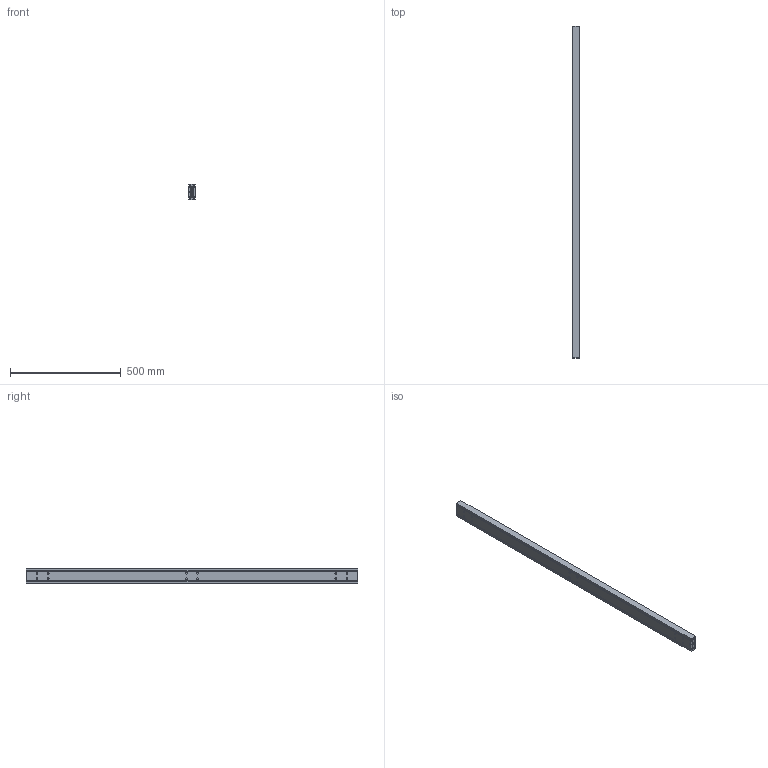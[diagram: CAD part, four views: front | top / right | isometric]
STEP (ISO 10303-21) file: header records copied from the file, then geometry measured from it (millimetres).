
FILE_DESCRIPTION(/* description */ (''),/* implementation_level */ '2;1');
FILE_NAME(/* name */ 'D:\Zeichnungen Schienen Komplett\MX-DTP70\MX-DTP70.150\MX-DTP70.150_eingefahren.stp',/* time_stamp */ '2021-06-15T12:00:19+02:00',/* author */ ('zmile'),/* organization */ (''),/* preprocessor_version */ 'ST-DEVELOPER v16.13',/* originating_system */ 'AutoCAD Mechanical',/* authorisation */ '');
FILE_SCHEMA (('AUTOMOTIVE_DESIGN { 1 0 10303 214 3 1 1 }'));
Length unit declared in the file: millimetre
Products named in the file (1): Product
Bounding box: 32 x 1500 x 70 mm (x, y, z)
Volume: 2556279.3 mm3; surface area: 849828.7 mm2
Topology: 61 solids, 63 shells, 190 faces, 632 edges, 456 vertices
Faces by surface type: plane 82, sphere 56, cylinder 38, bspline 8, torus 6
Full cylindrical faces by diameter (mm): 8 x24, 13 x2
Entity records: 14317 total; most frequent: CARTESIAN_POINT 8949, DIRECTION 1090, ORIENTED_EDGE 828, EDGE_CURVE 486, VERTEX_POINT 454, AXIS2_PLACEMENT_3D 439, EDGE_LOOP 386, CIRCLE 252
